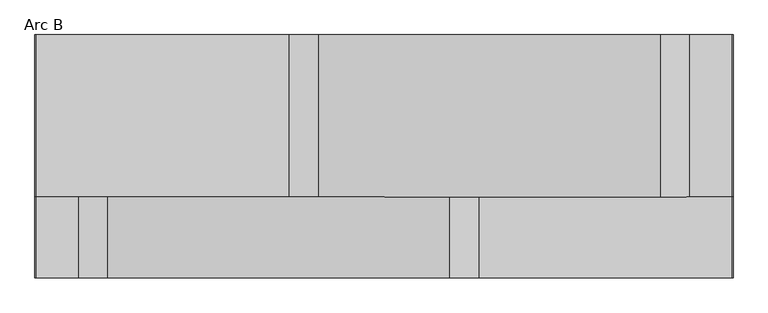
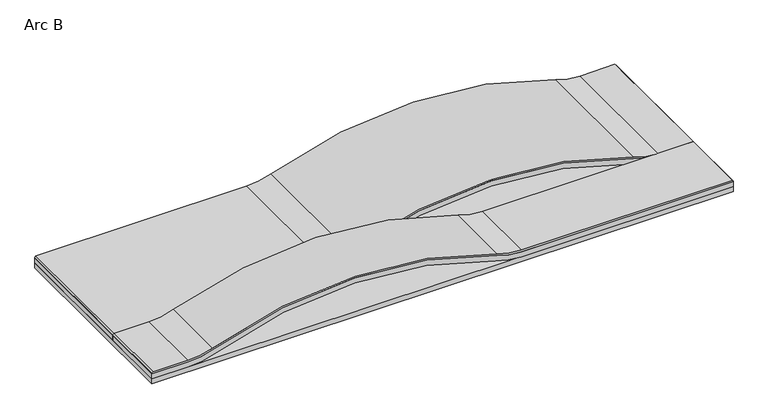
"""IFC4 building model written with IfcOpenShell, lengths in millimetres: proxy geometry, FilzFelt_Arc : Arc B."""

from ifc_helpers import new_model, si_unit, point, frame, frame_2d, origin, origin_with_axes, place, context, project, spatial, polyline, circle_curve, trimmed, segment, composite_curve, outline, extrude, source, transform, mapped, element, save


def arc_b_0d72effc(model_context):
    return source(origin(), model_context, "Body", "SweptSolid", [
        extrude(outline(composite_curve([segment(trimmed(circle_curve(frame_2d((-667.2995118, -165.1)), 748.3255118), [point((31.4189275, 102.8246428))], [point((31.4189275, -433.0246428))], False, "CARTESIAN"), True, "CONTINUOUS"), segment(trimmed(circle_curve(frame_2d((150.0, -478.4947345)), 127.0), [point((31.4189275, -433.0246428))], [point((23.0, -478.4947345))], True, "CARTESIAN"), True, "CONTINUOUS"), segment(polyline([(23.0, -478.4947345), (23.0, -544.1), (21.0, -546.1), (19.952, -546.1), (19.952, -477.9298789)]), True, "CONTINUOUS"), segment(trimmed(circle_curve(frame_2d((146.952, -477.9298789)), 127.0), [point((19.952, -477.9298789))], [point((28.4003457, -432.3831417))], False, "CARTESIAN"), True, "CONTINUOUS"), segment(trimmed(circle_curve(frame_2d((-667.2995118, -165.1)), 745.2775118), [point((28.4003457, -432.3831417))], [point((28.4003457, 102.1831417))], True, "CARTESIAN"), True, "CONTINUOUS"), segment(trimmed(circle_curve(frame_2d((146.952, 147.7298789)), 127.0), [point((28.4003457, 102.1831417))], [point((19.952, 147.7298789))], False, "CARTESIAN"), True, "CONTINUOUS"), segment(polyline([(19.952, 147.7298789), (19.952, 546.1), (21.0, 546.1), (23.0, 544.1), (23.0, 148.2947345)]), True, "CONTINUOUS"), segment(trimmed(circle_curve(frame_2d((150.0, 148.2947345)), 127.0), [point((23.0, 148.2947345))], [point((31.4189275, 102.8246428))], True, "CARTESIAN"), True, "CONTINUOUS")], self_intersect=False)), frame((0.0, -190.5, 0.0), z_axis=(0.0, 1.0, 0.0), x_axis=(0.0, 0.0, 1.0)), (0.0, 0.0, 1.0), 127.0),
        extrude(outline(composite_curve([segment(trimmed(circle_curve(frame_2d((147.0, 477.8049131)), 136.906), [point((19.193783, 428.725144))], [point((10.094, 477.8049131))], False, "CARTESIAN"), True, "CONTINUOUS"), segment(polyline([(10.094, 477.8049131), (10.094, 546.1), (19.952, 546.1), (19.952, 477.9298789)]), True, "CONTINUOUS"), segment(trimmed(circle_curve(frame_2d((146.952, 477.9298789)), 127.0), [point((19.952, 477.9298789))], [point((28.4003457, 432.3831417))], True, "CARTESIAN"), True, "CONTINUOUS"), segment(trimmed(circle_curve(frame_2d((-667.2995118, 165.1)), 745.2775118), [point((28.4003457, 432.3831417))], [point((28.4003457, -102.1831417))], False, "CARTESIAN"), True, "CONTINUOUS"), segment(trimmed(circle_curve(frame_2d((146.952, -147.7298789)), 127.0), [point((28.4003457, -102.1831417))], [point((19.952, -147.7298789))], True, "CARTESIAN"), True, "CONTINUOUS"), segment(polyline([(19.952, -147.7298789), (19.952, -546.1), (10.046, -546.1), (10.046, -147.7298789)]), True, "CONTINUOUS"), segment(trimmed(circle_curve(frame_2d((146.952, -147.7298789)), 136.906), [point((10.046, -147.7298789))], [point((19.1533167, -98.6304962))], False, "CARTESIAN"), True, "CONTINUOUS"), segment(trimmed(circle_curve(frame_2d((-667.2995118, 165.1)), 735.3715118), [point((19.1533167, -98.6304962))], [point((19.193783, 428.725144))], True, "CARTESIAN"), True, "CONTINUOUS")], self_intersect=False)), frame((0.0, -63.5, 0.0), z_axis=(0.0, 1.0, 0.0), x_axis=(0.0, 0.0, 1.0)), (0.0, 0.0, 1.0), 254.0),
        extrude(outline(composite_curve([segment(trimmed(circle_curve(frame_2d((150.0, -148.2947345)), 127.0), [point((31.4189275, -102.8246428))], [point((23.0, -148.2947345))], True, "CARTESIAN"), True, "CONTINUOUS"), segment(polyline([(23.0, -148.2947345), (23.0, -544.1), (21.0, -546.1), (19.952, -546.1), (19.952, -147.7298789)]), True, "CONTINUOUS"), segment(trimmed(circle_curve(frame_2d((146.952, -147.7298789)), 127.0), [point((19.952, -147.7298789))], [point((28.4003457, -102.1831417))], False, "CARTESIAN"), True, "CONTINUOUS"), segment(trimmed(circle_curve(frame_2d((-667.2995118, 165.1)), 745.2775118), [point((28.4003457, -102.1831417))], [point((28.4003457, 432.3831417))], True, "CARTESIAN"), True, "CONTINUOUS"), segment(trimmed(circle_curve(frame_2d((146.952, 477.9298789)), 127.0), [point((28.4003457, 432.3831417))], [point((19.952, 477.9298789))], False, "CARTESIAN"), True, "CONTINUOUS"), segment(polyline([(19.952, 477.9298789), (19.952, 546.1), (21.0, 546.1), (23.0, 544.1), (23.0, 478.4947345)]), True, "CONTINUOUS"), segment(trimmed(circle_curve(frame_2d((150.0, 478.4947345)), 127.0), [point((23.0, 478.4947345))], [point((31.4189275, 433.0246428))], True, "CARTESIAN"), True, "CONTINUOUS"), segment(trimmed(circle_curve(frame_2d((-667.2995118, 165.1)), 748.3255118), [point((31.4189275, 433.0246428))], [point((31.4189275, -102.8246428))], False, "CARTESIAN"), True, "CONTINUOUS")], self_intersect=False)), frame((0.0, -63.5, 0.0), z_axis=(0.0, 1.0, 0.0), x_axis=(0.0, 0.0, 1.0)), (0.0, 0.0, 1.0), 254.0),
        extrude(outline(composite_curve([segment(trimmed(circle_curve(frame_2d((-667.2995118, -165.1)), 735.3715118), [point((19.193783, -428.725144))], [point((19.1533167, 98.6304962))], True, "CARTESIAN"), True, "CONTINUOUS"), segment(trimmed(circle_curve(frame_2d((146.952, 147.7298789)), 136.906), [point((19.1533167, 98.6304962))], [point((10.046, 147.7298789))], False, "CARTESIAN"), True, "CONTINUOUS"), segment(polyline([(10.046, 147.7298789), (10.046, 546.1), (19.952, 546.1), (19.952, 147.7298789)]), True, "CONTINUOUS"), segment(trimmed(circle_curve(frame_2d((146.952, 147.7298789)), 127.0), [point((19.952, 147.7298789))], [point((28.4003457, 102.1831417))], True, "CARTESIAN"), True, "CONTINUOUS"), segment(trimmed(circle_curve(frame_2d((-667.2995118, -165.1)), 745.2775118), [point((28.4003457, 102.1831417))], [point((28.4003457, -432.3831417))], False, "CARTESIAN"), True, "CONTINUOUS"), segment(trimmed(circle_curve(frame_2d((146.952, -477.9298789)), 127.0), [point((28.4003457, -432.3831417))], [point((19.952, -477.9298789))], True, "CARTESIAN"), True, "CONTINUOUS"), segment(polyline([(19.952, -477.9298789), (19.952, -546.1), (10.094, -546.1), (10.094, -477.8049131)]), True, "CONTINUOUS"), segment(trimmed(circle_curve(frame_2d((147.0, -477.8049131)), 136.906), [point((10.094, -477.8049131))], [point((19.193783, -428.725144))], False, "CARTESIAN"), True, "CONTINUOUS")], self_intersect=False)), frame((0.0, -190.5, 0.0), z_axis=(0.0, 1.0, 0.0), x_axis=(0.0, 0.0, 1.0)), (0.0, 0.0, 1.0), 127.0),
        extrude(outline(polyline([(546.1, 190.5), (546.1, -190.5), (-546.1, -190.5), (-546.1, 190.5), (546.1, 190.5)])), origin_with_axes(), (0.0, 0.0, 1.0), 10.0),
    ])


if __name__ == "__main__":
    model = new_model("IFC4")
    model_context = context("Model", 3, world=origin())
    ifc_project = project(units=[si_unit("LENGTHUNIT", "METRE", prefix="MILLI")], contexts=[model_context])
    site = spatial("IfcSite", under=ifc_project)
    building = spatial("IfcBuilding", under=site)
    placement = place(None, origin())
    arc_b_shape = arc_b_0d72effc(model_context)
    element("IfcBuildingElementProxy", 1, Name="FilzFelt_Arc : Arc B", ObjectType="FilzFelt_Arc : Arc B", at=placement, inside=building, context=model_context, shape_type="MappedRepresentation", body=[
        mapped(arc_b_shape, transform((0.0, 0.0, 0.0), x_axis=(1.0, 0.0, 0.0), y_axis=(0.0, 1.0, 0.0), z_axis=(0.0, 0.0, 1.0))),
    ])
    save(model, "model.ifc")
